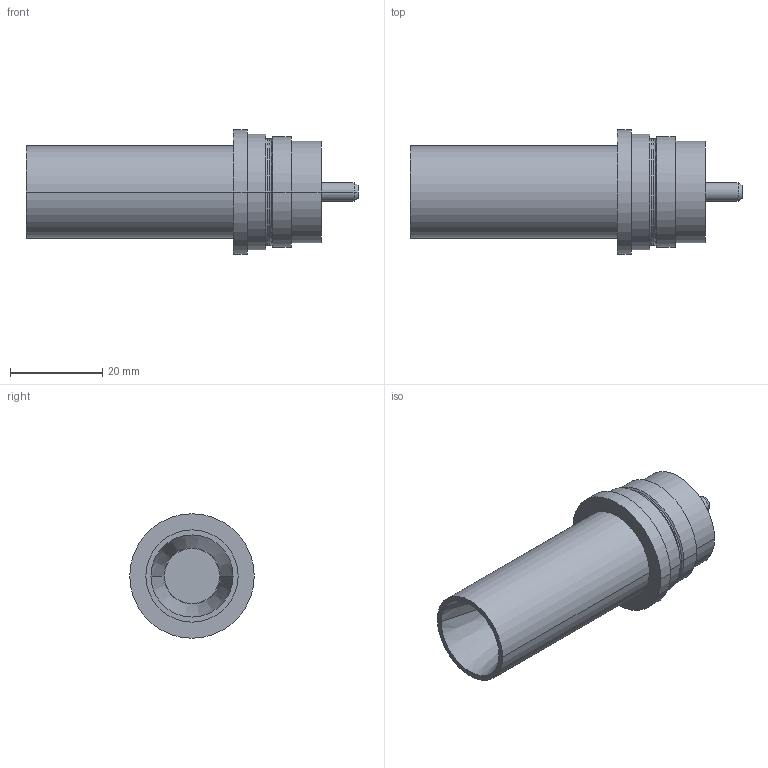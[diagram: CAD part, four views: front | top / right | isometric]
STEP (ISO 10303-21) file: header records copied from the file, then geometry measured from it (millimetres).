
FILE_DESCRIPTION (( 'STEP AP214' ), '1' );
FILE_NAME ('TPP_LS-01-03-001.STEP', '2021-01-11T09:23:22', ( '' ), ( '' ), 'SwSTEP 2.0', 'SolidWorks 2019', '' );
FILE_SCHEMA (( 'AUTOMOTIVE_DESIGN' ));
Length unit declared in the file: millimetre
Products named in the file (1): TPP_LS-01-03-001
Bounding box: 72 x 27 x 27 mm (x, y, z)
Volume: 15893.8 mm3; surface area: 7593.8 mm2
Topology: 1 solids, 1 shells, 47 faces, 92 edges, 56 vertices
Faces by surface type: cylinder 20, plane 11, cone 8, torus 8
Entity records: 1300 total; most frequent: DIRECTION 252, CARTESIAN_POINT 196, ORIENTED_EDGE 184, AXIS2_PLACEMENT_3D 112, EDGE_CURVE 92, CIRCLE 64, EDGE_LOOP 56, VERTEX_POINT 56
